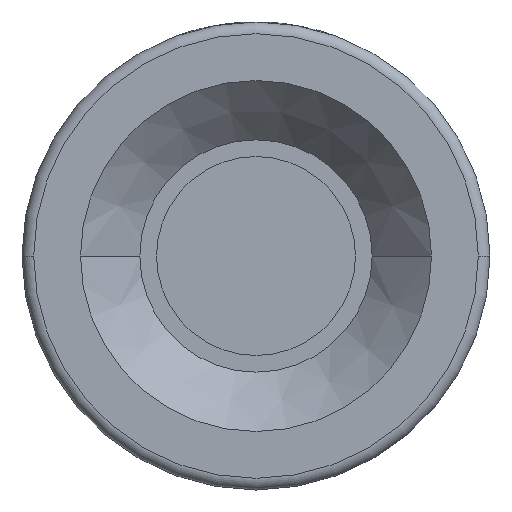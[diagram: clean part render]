
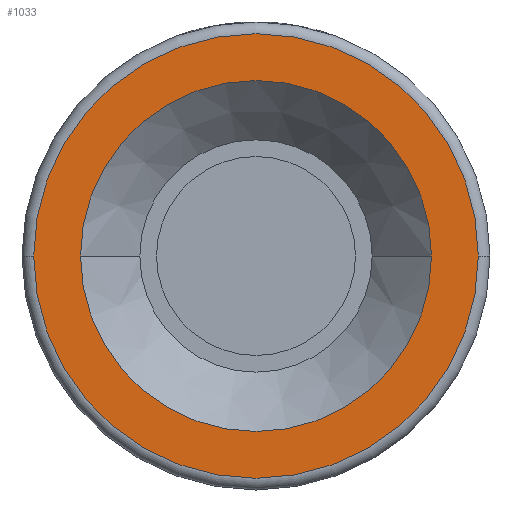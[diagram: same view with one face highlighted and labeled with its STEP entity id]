
A CAD part, front view. The second image highlights one B-rep face of the part: STEP entity #1033.
In plain terms, the highlighted planar face has unit normal (0, -1, 0).
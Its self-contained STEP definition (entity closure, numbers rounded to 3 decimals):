
#58 = CARTESIAN_POINT ( 'NONE',  ( 20., -13., 0. ) ) ;
#76 = FACE_BOUND ( 'NONE', #1018, .T. ) ;
#298 = DIRECTION ( 'NONE',  ( 1., 0., 0. ) ) ;
#450 = CIRCLE ( 'NONE', #4222, 15. ) ;
#989 = CARTESIAN_POINT ( 'NONE',  ( 0., -13., 0. ) ) ;
#1018 = EDGE_LOOP ( 'NONE', ( #2152, #1652 ) ) ;
#1033 = ADVANCED_FACE ( 'NONE', ( #3009, #76 ), #1049, .T. ) ;
#1049 = PLANE ( 'NONE',  #1755 ) ;
#1088 = ORIENTED_EDGE ( 'NONE', *, *, #3742, .T. ) ;
#1099 = CIRCLE ( 'NONE', #1645, 15. ) ;
#1136 = CIRCLE ( 'NONE', #3330, 19. ) ;
#1143 = AXIS2_PLACEMENT_3D ( 'NONE', #3470, #3403, #1838 ) ;
#1172 = EDGE_CURVE ( 'NONE', #2877, #2969, #1099, .T. ) ;
#1316 = DIRECTION ( 'NONE',  ( 0., -1., 0. ) ) ;
#1629 = CARTESIAN_POINT ( 'NONE',  ( 0., -13., 0. ) ) ;
#1645 = AXIS2_PLACEMENT_3D ( 'NONE', #1629, #2945, #4251 ) ;
#1652 = ORIENTED_EDGE ( 'NONE', *, *, #3214, .F. ) ;
#1755 = AXIS2_PLACEMENT_3D ( 'NONE', #58, #2362, #3046 ) ;
#1767 = DIRECTION ( 'NONE',  ( 0., -1., 0. ) ) ;
#1838 = DIRECTION ( 'NONE',  ( 1., 0., 0. ) ) ;
#2019 = CARTESIAN_POINT ( 'NONE',  ( -15., -13., 0. ) ) ;
#2152 = ORIENTED_EDGE ( 'NONE', *, *, #1172, .F. ) ;
#2362 = DIRECTION ( 'NONE',  ( 0., -1., 0. ) ) ;
#2379 = CIRCLE ( 'NONE', #1143, 19. ) ;
#2846 = CARTESIAN_POINT ( 'NONE',  ( -19., -13., 0. ) ) ;
#2877 = VERTEX_POINT ( 'NONE', #3083 ) ;
#2935 = EDGE_CURVE ( 'NONE', #3371, #4027, #1136, .T. ) ;
#2945 = DIRECTION ( 'NONE',  ( 0., -1., 0. ) ) ;
#2969 = VERTEX_POINT ( 'NONE', #2019 ) ;
#3009 = FACE_OUTER_BOUND ( 'NONE', #3591, .T. ) ;
#3046 = DIRECTION ( 'NONE',  ( 1., 0., 0. ) ) ;
#3083 = CARTESIAN_POINT ( 'NONE',  ( 15., -13., 0. ) ) ;
#3098 = CARTESIAN_POINT ( 'NONE',  ( 19., -13., 0. ) ) ;
#3214 = EDGE_CURVE ( 'NONE', #2969, #2877, #450, .T. ) ;
#3330 = AXIS2_PLACEMENT_3D ( 'NONE', #3425, #1767, #4001 ) ;
#3366 = ORIENTED_EDGE ( 'NONE', *, *, #2935, .T. ) ;
#3371 = VERTEX_POINT ( 'NONE', #3098 ) ;
#3403 = DIRECTION ( 'NONE',  ( 0., -1., 0. ) ) ;
#3425 = CARTESIAN_POINT ( 'NONE',  ( 0., -13., 0. ) ) ;
#3470 = CARTESIAN_POINT ( 'NONE',  ( 0., -13., 0. ) ) ;
#3591 = EDGE_LOOP ( 'NONE', ( #3366, #1088 ) ) ;
#3742 = EDGE_CURVE ( 'NONE', #4027, #3371, #2379, .T. ) ;
#4001 = DIRECTION ( 'NONE',  ( 1., 0., 0. ) ) ;
#4027 = VERTEX_POINT ( 'NONE', #2846 ) ;
#4222 = AXIS2_PLACEMENT_3D ( 'NONE', #989, #1316, #298 ) ;
#4251 = DIRECTION ( 'NONE',  ( 1., 0., 0. ) ) ;
